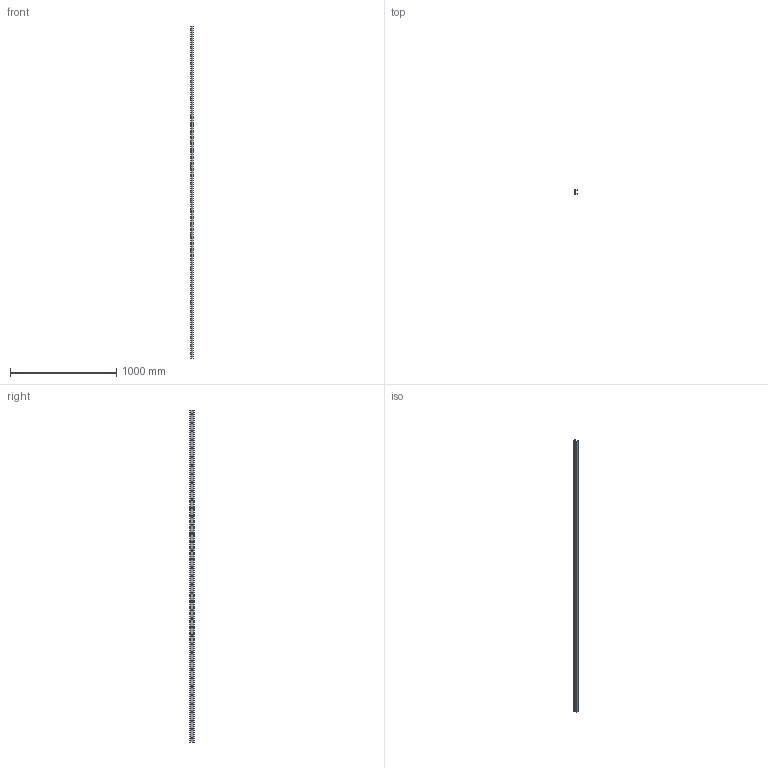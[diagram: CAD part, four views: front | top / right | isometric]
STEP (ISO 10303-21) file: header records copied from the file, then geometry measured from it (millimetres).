
FILE_DESCRIPTION (( 'STEP AP203' ), '1' );
FILE_NAME ('L1970.40U-3120.step', '2026-01-14T11:07:12', ( '' ), ( '' ), 'SwSTEP 2.0', 'SolidWorks 2019', '' );
FILE_SCHEMA (( 'CONFIG_CONTROL_DESIGN' ));
Length unit declared in the file: millimetre
Products named in the file (1): L1970.40U-3120
Bounding box: 21 x 38.5 x 3120 mm (x, y, z)
Volume: 649508.7 mm3; surface area: 456393.7 mm2
Topology: 1 solids, 1 shells, 209 faces, 621 edges, 414 vertices
Faces by surface type: cylinder 121, plane 88
Entity records: 7330 total; most frequent: DIRECTION 1283, CARTESIAN_POINT 1245, ORIENTED_EDGE 1242, EDGE_CURVE 621, AXIS2_PLACEMENT_3D 452, VERTEX_POINT 414, VECTOR 379, LINE 379
